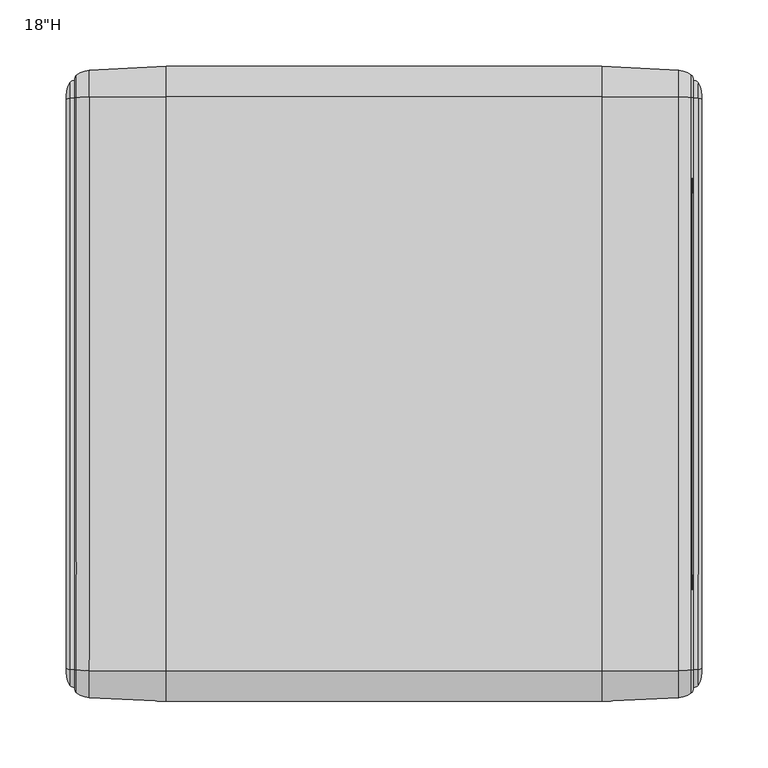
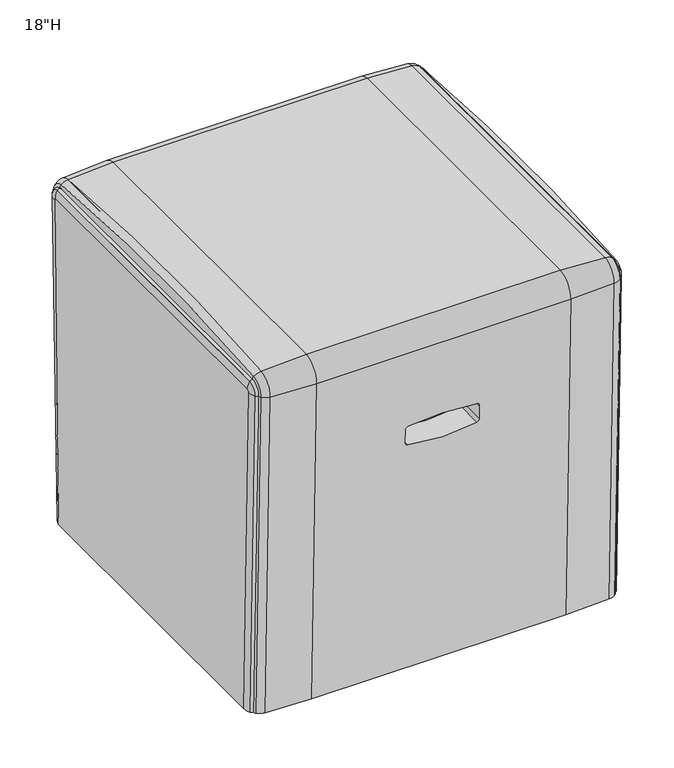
"""IFC4 building model written with IfcOpenShell, lengths in millimetres: furniture geometry."""

from ifc_helpers import new_model, si_unit, point, frame, origin, place, context, project, spatial, polyline, circle_curve, ellipse_curve, trimmed, source, transform, mapped, element, save
from ifc_brep_helpers import plane_surface, cylinder_surface, revolved_surface, advanced_brep


def furniture_cae93756(model_context):
    return source(origin(), model_context, "Body", "AdvancedBrep", [
        advanced_brep(
        [(163.8587008, -239.1073129, 454.7694891), (-163.8587008, -239.1073129, 454.7694891), (-163.8587008, -227.8777586, 17.2390594), (163.8587008, -227.8777586, 17.2390594), (44.2208622, -236.4942415, 352.9579458), (47.7093439, -236.3925517, 348.9958664), (47.7093439, -235.9314742, 331.0311777), (44.5276348, -235.8311049, 327.1205482), (-44.5276348, -235.8311049, 327.1205482), (-47.7093439, -235.9314742, 331.0311777), (-47.7093439, -236.3925517, 348.9958664), (-44.2208622, -236.4942415, 352.9579458), (-222.0087486, -236.1553847, 454.8452526), (-222.0087486, -224.9238858, 17.2390594), (163.8587008, -216.1489627, 480.5438656), (-163.8587008, -216.1489627, 480.5438656), (-222.0087486, -215.8842022, 477.6028586), (163.8587008, 216.1489627, 480.5438656), (-163.8587008, 216.1489627, 480.5438656), (-222.0087486, 215.8842022, 477.6028586), (163.8587008, 239.1073129, 454.7694891), (-163.8587008, 239.1073129, 454.7694891), (-222.0087486, 236.1553847, 454.8452526), (163.8587008, 227.8777586, 17.2390594), (-163.8587008, 227.8777586, 17.2390594), (-222.0087486, 224.9238858, 17.2390594), (-236.5968433, -226.6966313, 455.0880188), (-239.1289801, -217.2096187, 455.3315102), (-239.1289801, -205.9656397, 17.2390594), (-236.5968433, -215.4589017, 17.2390594), (-236.5968433, -215.0358402, 468.1790996), (-239.1289801, -214.1849436, 458.7271861), (-236.5968433, 215.0358402, 468.1790996), (-239.1289801, 214.1849436, 458.7271861), (-236.5968433, 226.6966313, 455.0880188), (-239.1289801, 217.2096187, 455.3315102), (-236.5968433, 215.4589017, 17.2390594), (-238.8280599, 209.3393613, 17.2390594), (-231.5440406, -221.1842912, 17.2390594), (-231.7344628, -216.2668747, 17.2390594), (-239.1289801, 209.3393613, 17.2390594), (-231.7425975, 216.2576632, 17.2390594), (-231.5440406, 221.1842912, 17.2390594), (222.0087486, 224.9238858, 17.2390594), (231.5440406, 221.1842912, 17.2390594), (231.7344658, 216.2668774, 17.2390594), (236.5968433, 215.4589017, 17.2390594), (238.8280599, 209.3393613, 17.2390594), (239.1289801, 209.3393613, 17.2390594), (239.1289801, -205.9656397, 17.2390594), (236.5968433, -215.4589017, 17.2390594), (231.7426005, -216.2576659, 17.2390594), (231.5440406, -221.1842912, 17.2390594), (222.0087486, -224.9238858, 17.2390594), (44.2208622, -200.9856224, 353.8693017), (-44.2208622, -200.9856224, 353.8693017), (-47.7093439, -200.8839326, 349.9072223), (-47.7093439, -200.4228551, 331.9425337), (-44.5276348, -200.3224858, 328.0319042), (44.5276348, -200.3224858, 328.0319042), (47.7093439, -200.4228551, 331.9425337), (47.7093439, -200.8839326, 349.9072223), (-231.5440406, -232.4182518, 454.941169), (-231.7344658, -227.5040751, 455.0672951), (239.1289801, -217.2096187, 455.3315102), (236.5968433, -226.6966313, 455.0880188), (231.7425975, -227.494867, 455.0675314), (231.5440406, -232.4182518, 454.941169), (222.0087486, -236.1553847, 454.8452526), (-231.5440406, -215.5490162, 473.8795519), (-231.7344658, -215.1082604, 468.9835562), (239.1289801, -214.1849436, 458.7271861), (236.5968433, -215.0358402, 468.1790996), (231.7425975, -215.1074345, 468.9743822), (231.5440406, -215.5490162, 473.8795519), (222.0087486, -215.8842022, 477.6028586), (-231.5440406, 215.5490162, 473.8795519), (-231.7344658, 215.1082604, 468.9835562), (239.1289801, 214.1849436, 458.7271861), (236.5968433, 215.0358402, 468.1790996), (231.7425975, 215.1074345, 468.9743822), (231.5440406, 215.5490162, 473.8795519), (222.0087486, 215.8842022, 477.6028586), (-231.5440406, 232.4182518, 454.941169), (-231.7344658, 227.5040751, 455.0672951), (239.1289801, 217.2096187, 455.3315102), (236.5968433, 226.6966313, 455.0880188), (231.7425975, 227.494867, 455.0675314), (231.5440406, 232.4182518, 454.941169), (222.0087486, 236.1553847, 454.8452526)],
        [
            (0, 1),
            (1, 2),
            (2, 3),
            (3, 0),
            (4, 5, circle_curve(frame((43.7136345, -236.3925517, 348.9958664), z_axis=(0.0, 0.999670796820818, 0.025657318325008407), x_axis=(0.0, 0.025657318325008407, -0.999670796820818)), 3.9957094)),
            (5, 6),
            (6, 7, circle_curve(frame((43.7136345, -235.9314742, 331.0311777), z_axis=(0.0, 0.999670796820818, 0.025657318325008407), x_axis=(0.0, 0.025657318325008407, -0.999670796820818)), 3.9957094)),
            (7, 8, circle_curve(frame((0.0, -241.3215305, 541.0407268), z_axis=(0.0, 0.999670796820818, 0.025657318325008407), x_axis=(0.0, 0.025657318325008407, -0.999670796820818)), 218.5742387)),
            (8, 9, circle_curve(frame((-43.7136345, -235.9314742, 331.0311777), z_axis=(0.0, 0.999670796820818, 0.025657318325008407), x_axis=(0.0, 0.025657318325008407, -0.999670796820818)), 3.9957094)),
            (9, 10),
            (10, 11, circle_curve(frame((-43.7136345, -236.3925517, 348.9958664), z_axis=(0.0, 0.999670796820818, 0.025657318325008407), x_axis=(0.0, 0.025657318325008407, -0.999670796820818)), 3.9957094)),
            (11, 4, circle_curve(frame((0.0, -227.6287739, 7.5380153), z_axis=(0.0, 0.999670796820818, 0.025657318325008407), x_axis=(0.0, 0.025657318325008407, -0.999670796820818)), 348.3518473)),
            (1, 12, circle_curve(frame((-163.8587008, 334.7406374, 469.4977372), z_axis=(0.0, 0.025657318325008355, -0.9996707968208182), x_axis=(0.0, -0.9996707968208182, -0.025657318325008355)), 574.0369251)),
            (12, 13),
            (13, 2, ellipse_curve(frame((-163.8587008, 346.3482035, 17.2390594), z_axis=(0.0, 0.0, 1.0), x_axis=(0.0, 1.0, 0.0)), 574.2259621, 574.0369251)),
            (0, 14, circle_curve(frame((163.8587008, -213.8869293, 455.4167896), z_axis=(-1.0, 0.0, 0.0), x_axis=(0.0, -0.9996707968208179, -0.025657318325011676)), 25.2286889)),
            (14, 15),
            (15, 1, circle_curve(frame((-163.8587008, -213.8869293, 455.4167896), z_axis=(1.0, 0.0, 0.0), x_axis=(0.0, -0.9996707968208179, -0.025657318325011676)), 25.2286889)),
            (15, 16, circle_curve(frame((-163.8587008, -164.6801507, -91.181027), z_axis=(0.0, -0.9959723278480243, -0.08966115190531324), x_axis=(0.0, -0.08966115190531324, 0.9959723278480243)), 574.0369251)),
            (16, 12, circle_curve(frame((-222.0087486, -213.8869293, 455.4167896), z_axis=(1.0, 0.0, 0.0), x_axis=(0.0, -0.9996707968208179, -0.025657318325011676)), 22.2757886)),
            (14, 17, circle_curve(frame((163.8587008, 0.0, -1920.477992), z_axis=(-1.0, 0.0, 0.0), x_axis=(0.0, -0.08966115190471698, 0.995972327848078)), 2410.7314937)),
            (17, 18),
            (18, 15, circle_curve(frame((-163.8587008, 0.0, -1920.477992), z_axis=(1.0, 0.0, 0.0), x_axis=(0.0, -0.08966115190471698, 0.995972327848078)), 2410.7314937)),
            (18, 19, circle_curve(frame((-163.8587008, 164.6801507, -91.181027), z_axis=(0.0, -0.9959723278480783, 0.08966115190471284), x_axis=(0.0, 0.08966115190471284, 0.9959723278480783)), 574.0369251)),
            (19, 16, circle_curve(frame((-222.0087486, 0.0, -1920.477992), z_axis=(1.0, 0.0, 0.0), x_axis=(0.0, -0.08966115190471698, 0.995972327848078)), 2407.7785933)),
            (17, 20, circle_curve(frame((163.8587008, 213.8869293, 455.4167896), z_axis=(-1.0, 0.0, 0.0), x_axis=(0.0, 0.08966115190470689, 0.9959723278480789)), 25.2286889)),
            (20, 21),
            (21, 18, circle_curve(frame((-163.8587008, 213.8869293, 455.4167896), z_axis=(1.0, 0.0, 0.0), x_axis=(0.0, 0.08966115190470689, 0.9959723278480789)), 25.2286889)),
            (21, 22, circle_curve(frame((-163.8587008, -334.7406374, 469.4977372), z_axis=(0.0, 0.025657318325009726, 0.999670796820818), x_axis=(0.0, 0.999670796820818, -0.025657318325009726)), 574.0369251)),
            (22, 19, circle_curve(frame((-222.0087486, 213.8869293, 455.4167896), z_axis=(1.0, 0.0, 0.0), x_axis=(0.0, 0.08966115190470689, 0.9959723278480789)), 22.2757886)),
            (20, 23),
            (23, 24),
            (24, 21),
            (24, 25, ellipse_curve(frame((-163.8587008, -346.3482035, 17.2390594), z_axis=(0.0, 0.0, 1.0), x_axis=(0.0, 1.0, 0.0)), 574.2259621, 574.0369251)),
            (25, 22),
            (26, 27, circle_curve(frame((-220.0789801, -217.2096187, 455.3315102), z_axis=(0.0, 0.025657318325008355, -0.9996707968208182), x_axis=(0.0, -0.9996707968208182, -0.025657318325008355)), 19.05)),
            (27, 28),
            (28, 29, ellipse_curve(frame((-220.0789801, -205.9656397, 17.2390594), z_axis=(0.0, 0.0, 1.0), x_axis=(0.0, 1.0, 0.0)), 19.0562734, 19.05)),
            (29, 26),
            (26, 30, circle_curve(frame((-236.5968433, -213.8869293, 455.4167896), z_axis=(-1.0, 0.0, 0.0), x_axis=(0.0, -0.9996707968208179, -0.025657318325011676)), 12.8139203)),
            (30, 31, circle_curve(frame((-220.0789801, -214.1849436, 458.7271861), z_axis=(0.0, -0.9959723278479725, -0.08966115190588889), x_axis=(0.0, -0.08966115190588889, 0.9959723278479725)), 19.05)),
            (31, 27, circle_curve(frame((-239.1289801, -213.8869293, 455.4167896), z_axis=(1.0, 0.0, 0.0), x_axis=(0.0, -0.9996707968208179, -0.025657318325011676)), 3.3237836)),
            (30, 32, circle_curve(frame((-236.5968433, 0.0, -1920.477992), z_axis=(-1.0, 0.0, 0.0), x_axis=(0.0, -0.08966115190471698, 0.995972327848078)), 2398.3167251)),
            (32, 33, circle_curve(frame((-220.0789801, 214.1849436, 458.7271861), z_axis=(0.0, -0.9959723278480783, 0.0896611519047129), x_axis=(0.0, 0.0896611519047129, 0.9959723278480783)), 19.05)),
            (33, 31, circle_curve(frame((-239.1289801, 0.0, -1920.477992), z_axis=(1.0, 0.0, 0.0), x_axis=(0.0, -0.08966115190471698, 0.995972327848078)), 2388.8265883)),
            (32, 34, circle_curve(frame((-236.5968433, 213.8869293, 455.4167896), z_axis=(-1.0, 0.0, 0.0), x_axis=(0.0, 0.08966115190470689, 0.9959723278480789)), 12.8139203)),
            (34, 35, circle_curve(frame((-220.0789801, 217.2096187, 455.3315102), z_axis=(0.0, 0.025657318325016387, 0.9996707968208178), x_axis=(0.0, 0.9996707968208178, -0.025657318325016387)), 19.05)),
            (35, 33, circle_curve(frame((-239.1289801, 213.8869293, 455.4167896), z_axis=(1.0, 0.0, 0.0), x_axis=(0.0, 0.08966115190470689, 0.9959723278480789)), 3.3237836)),
            (34, 36),
            (36, 37, ellipse_curve(frame((-220.0789801, 205.9656397, 17.2390594), z_axis=(0.0, 0.0, 1.0), x_axis=(0.0, 1.0, 0.0)), 19.0562734, 19.05)),
            (37, 35, ellipse_curve(frame((-220.0789801, 217.2096187, 455.3315102), z_axis=(0.0, 0.999838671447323, -0.01796193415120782), x_axis=(0.0, 0.017961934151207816, 0.9998386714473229)), 2474.9394383, 19.05)),
            (13, 38, ellipse_curve(frame((-220.0789801, -205.9656397, 17.2390594), z_axis=(0.0, 0.0, -1.0), x_axis=(0.0, 1.0, 0.0)), 19.0562734, 19.05)),
            (38, 39, ellipse_curve(frame((-229.6331972, -218.6478493, 17.2390594), z_axis=(0.0, 0.0, -1.0), x_axis=(0.0, 1.0, 0.0)), 3.1760456, 3.175)),
            (39, 29, ellipse_curve(frame((-233.8438661, -213.8766913, 17.2390594), z_axis=(0.0, 0.0, -1.0), x_axis=(0.0, 1.0, 0.0)), 3.1760456, 3.175)),
            (28, 40),
            (40, 37),
            (36, 41, ellipse_curve(frame((-233.8438661, 213.8766913, 17.2390594), z_axis=(0.0, 0.0, -1.0), x_axis=(0.0, 1.0, 0.0)), 3.1760456, 3.175)),
            (41, 42, ellipse_curve(frame((-229.6331972, 218.6478493, 17.2390594), z_axis=(0.0, 0.0, -1.0), x_axis=(0.0, 1.0, 0.0)), 3.1760456, 3.175)),
            (42, 25, ellipse_curve(frame((-220.0789801, 205.9656397, 17.2390594), z_axis=(0.0, 0.0, -1.0), x_axis=(0.0, 1.0, 0.0)), 19.0562734, 19.05)),
            (23, 43, ellipse_curve(frame((163.8587008, -346.3482035, 17.2390594), z_axis=(0.0, 0.0, -1.0), x_axis=(0.0, 1.0, 0.0)), 574.2259621, 574.0369251)),
            (43, 44, ellipse_curve(frame((220.0789801, 205.9656397, 17.2390594), z_axis=(0.0, 0.0, -1.0), x_axis=(0.0, 1.0, 0.0)), 19.0562734, 19.05)),
            (44, 45, ellipse_curve(frame((229.6331972, 218.6478493, 17.2390594), z_axis=(0.0, 0.0, -1.0), x_axis=(0.0, 1.0, 0.0)), 3.1760456, 3.175)),
            (45, 46, ellipse_curve(frame((233.8438661, 213.8766913, 17.2390594), z_axis=(0.0, 0.0, -1.0), x_axis=(0.0, 1.0, 0.0)), 3.1760456, 3.175)),
            (46, 47, ellipse_curve(frame((220.0789801, 205.9656397, 17.2390594), z_axis=(0.0, 0.0, -1.0), x_axis=(0.0, 1.0, 0.0)), 19.0562734, 19.05)),
            (47, 48),
            (48, 49),
            (49, 50, ellipse_curve(frame((220.0789801, -205.9656397, 17.2390594), z_axis=(0.0, 0.0, -1.0), x_axis=(0.0, 1.0, 0.0)), 19.0562734, 19.05)),
            (50, 51, ellipse_curve(frame((233.8438661, -213.8766913, 17.2390594), z_axis=(0.0, 0.0, -1.0), x_axis=(0.0, 1.0, 0.0)), 3.1760456, 3.175)),
            (51, 52, ellipse_curve(frame((229.6331972, -218.6478493, 17.2390594), z_axis=(0.0, 0.0, -1.0), x_axis=(0.0, 1.0, 0.0)), 3.1760456, 3.175)),
            (52, 53, ellipse_curve(frame((220.0789801, -205.9656397, 17.2390594), z_axis=(0.0, 0.0, -1.0), x_axis=(0.0, 1.0, 0.0)), 19.0562734, 19.05)),
            (53, 3, ellipse_curve(frame((163.8587008, 346.3482035, 17.2390594), z_axis=(0.0, 0.0, -1.0), x_axis=(0.0, 1.0, 0.0)), 574.2259621, 574.0369251)),
            (54, 55, circle_curve(frame((0.0, -192.1201548, 8.4493712), z_axis=(0.0, -0.999670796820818, -0.025657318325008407), x_axis=(0.0, 0.025657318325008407, -0.999670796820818)), 348.3518473)),
            (55, 56, circle_curve(frame((-43.7136345, -200.8839326, 349.9072223), z_axis=(0.0, -0.999670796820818, -0.025657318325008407), x_axis=(0.0, 0.025657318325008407, -0.999670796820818)), 3.9957094)),
            (56, 57),
            (57, 58, circle_curve(frame((-43.7136345, -200.4228551, 331.9425337), z_axis=(0.0, -0.999670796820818, -0.025657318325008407), x_axis=(0.0, 0.025657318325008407, -0.999670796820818)), 3.9957094)),
            (58, 59, circle_curve(frame((0.0, -205.8129114, 541.9520827), z_axis=(0.0, -0.999670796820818, -0.025657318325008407), x_axis=(0.0, 0.025657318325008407, -0.999670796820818)), 218.5742387)),
            (59, 60, circle_curve(frame((43.7136345, -200.4228551, 331.9425337), z_axis=(0.0, -0.999670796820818, -0.025657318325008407), x_axis=(0.0, 0.025657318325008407, -0.999670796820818)), 3.9957094)),
            (60, 61),
            (61, 54, circle_curve(frame((43.7136345, -200.8839326, 349.9072223), z_axis=(0.0, -0.999670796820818, -0.025657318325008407), x_axis=(0.0, 0.025657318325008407, -0.999670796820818)), 3.9957094)),
            (61, 5),
            (4, 54),
            (60, 6),
            (59, 7),
            (58, 8),
            (57, 9),
            (56, 10),
            (55, 11),
            (12, 62, circle_curve(frame((-220.0789801, -217.2096187, 455.3315102), z_axis=(0.0, 0.025657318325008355, -0.9996707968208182), x_axis=(0.0, -0.9996707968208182, -0.025657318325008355)), 19.05)),
            (62, 38),
            (62, 63, circle_curve(frame((-229.6331972, -229.8834796, 455.0062258), z_axis=(0.0, 0.025657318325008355, -0.9996707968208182), x_axis=(0.0, -0.9996707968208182, -0.025657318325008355)), 3.175)),
            (63, 39),
            (63, 26, circle_curve(frame((-233.8438661, -225.1154625, 455.1286007), z_axis=(0.0, 0.025657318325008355, -0.9996707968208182), x_axis=(0.0, -0.9996707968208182, -0.025657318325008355)), 3.175)),
            (64, 65, circle_curve(frame((220.0789801, -217.2096187, 455.3315102), z_axis=(0.0, 0.025657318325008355, -0.9996707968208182), x_axis=(0.0, -0.9996707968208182, -0.025657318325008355)), 19.05)),
            (65, 50),
            (49, 64),
            (65, 66, circle_curve(frame((233.8438661, -225.1154625, 455.1286007), z_axis=(0.0, 0.025657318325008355, -0.9996707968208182), x_axis=(0.0, -0.9996707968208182, -0.025657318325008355)), 3.175)),
            (66, 51),
            (66, 67, circle_curve(frame((229.6331972, -229.8834796, 455.0062258), z_axis=(0.0, 0.025657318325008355, -0.9996707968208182), x_axis=(0.0, -0.9996707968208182, -0.025657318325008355)), 3.175)),
            (67, 52),
            (67, 68, circle_curve(frame((220.0789801, -217.2096187, 455.3315102), z_axis=(0.0, 0.025657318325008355, -0.9996707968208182), x_axis=(0.0, -0.9996707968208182, -0.025657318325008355)), 19.05)),
            (68, 53),
            (68, 0, circle_curve(frame((163.8587008, 334.7406374, 469.4977372), z_axis=(0.0, 0.025657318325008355, -0.9996707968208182), x_axis=(0.0, -0.9996707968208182, -0.025657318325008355)), 574.0369251)),
            (16, 69, circle_curve(frame((-220.0789801, -214.1849436, 458.7271861), z_axis=(0.0, -0.9959723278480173, -0.08966115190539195), x_axis=(0.0, -0.08966115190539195, 0.9959723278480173)), 19.05)),
            (69, 62, circle_curve(frame((-231.5440406, -213.8869293, 455.4167896), z_axis=(1.0, 0.0, 0.0), x_axis=(0.0, -0.9996707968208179, -0.025657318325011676)), 18.537425)),
            (69, 70, circle_curve(frame((-229.6331972, -215.3216708, 471.3541576), z_axis=(0.0, -0.9959723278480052, -0.08966115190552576), x_axis=(0.0, -0.08966115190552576, 0.9959723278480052)), 3.175)),
            (70, 63, circle_curve(frame((-231.7344658, -213.8869293, 455.4167896), z_axis=(1.0, 0.0, 0.0), x_axis=(0.0, -0.9996707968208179, -0.025657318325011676)), 13.62163)),
            (70, 30, circle_curve(frame((-233.8438661, -214.8940241, 466.6037807), z_axis=(0.0, -0.9959723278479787, -0.08966115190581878), x_axis=(0.0, -0.08966115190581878, 0.9959723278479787)), 3.175)),
            (64, 71, circle_curve(frame((239.1289801, -213.8869293, 455.4167896), z_axis=(-1.0, 0.0, 0.0), x_axis=(0.0, -0.9996707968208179, -0.025657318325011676)), 3.3237836)),
            (71, 72, circle_curve(frame((220.0789801, -214.1849436, 458.7271861), z_axis=(0.0, -0.9959723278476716, -0.08966115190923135), x_axis=(0.0, -0.08966115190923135, 0.9959723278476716)), 19.05)),
            (72, 65, circle_curve(frame((236.5968433, -213.8869293, 455.4167896), z_axis=(1.0, 0.0, 0.0), x_axis=(0.0, -0.9996707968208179, -0.025657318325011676)), 12.8139203)),
            (72, 73, circle_curve(frame((233.8438661, -214.8940241, 466.6037807), z_axis=(0.0, -0.9959723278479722, -0.08966115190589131), x_axis=(0.0, -0.08966115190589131, 0.9959723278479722)), 3.175)),
            (73, 66, circle_curve(frame((231.7425975, -213.8869293, 455.4167896), z_axis=(1.0, 0.0, 0.0), x_axis=(0.0, -0.9996707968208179, -0.025657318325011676)), 13.6124189)),
            (73, 74, circle_curve(frame((229.6331972, -215.3216708, 471.3541576), z_axis=(0.0, -0.9959723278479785, -0.08966115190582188), x_axis=(0.0, -0.08966115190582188, 0.9959723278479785)), 3.175)),
            (74, 67, circle_curve(frame((231.5440406, -213.8869293, 455.4167896), z_axis=(1.0, 0.0, 0.0), x_axis=(0.0, -0.9996707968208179, -0.025657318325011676)), 18.537425)),
            (74, 75, circle_curve(frame((220.0789801, -214.1849436, 458.7271861), z_axis=(0.0, -0.9959723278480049, -0.08966115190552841), x_axis=(0.0, -0.08966115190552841, 0.9959723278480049)), 19.05)),
            (75, 68, circle_curve(frame((222.0087486, -213.8869293, 455.4167896), z_axis=(1.0, 0.0, 0.0), x_axis=(0.0, -0.9996707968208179, -0.025657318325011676)), 22.2757886)),
            (75, 14, circle_curve(frame((163.8587008, -164.6801507, -91.181027), z_axis=(0.0, -0.9959723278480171, -0.0896611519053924), x_axis=(0.0, -0.0896611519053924, 0.9959723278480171)), 574.0369251)),
            (19, 76, circle_curve(frame((-220.0789801, 214.1849436, 458.7271861), z_axis=(0.0, -0.9959723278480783, 0.0896611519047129), x_axis=(0.0, 0.0896611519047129, 0.9959723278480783)), 19.05)),
            (76, 69, circle_curve(frame((-231.5440406, 0.0, -1920.477992), z_axis=(1.0, 0.0, 0.0), x_axis=(0.0, -0.08966115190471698, 0.995972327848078)), 2404.0402298)),
            (76, 77, circle_curve(frame((-229.6331972, 215.3216708, 471.3541576), z_axis=(0.0, -0.9959723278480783, 0.0896611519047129), x_axis=(0.0, 0.0896611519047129, 0.9959723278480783)), 3.175)),
            (77, 70, circle_curve(frame((-231.7344658, 0.0, -1920.477992), z_axis=(1.0, 0.0, 0.0), x_axis=(0.0, -0.08966115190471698, 0.995972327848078)), 2399.1244348)),
            (77, 32, circle_curve(frame((-233.8438661, 214.8940241, 466.6037807), z_axis=(0.0, -0.9959723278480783, 0.08966115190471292), x_axis=(0.0, 0.08966115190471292, 0.9959723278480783)), 3.175)),
            (71, 78, circle_curve(frame((239.1289801, 0.0, -1920.477992), z_axis=(-1.0, 0.0, 0.0), x_axis=(0.0, -0.08966115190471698, 0.995972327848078)), 2388.8265883)),
            (78, 79, circle_curve(frame((220.0789801, 214.1849436, 458.7271861), z_axis=(0.0, -0.9959723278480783, 0.08966115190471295), x_axis=(0.0, 0.08966115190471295, 0.9959723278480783)), 19.05)),
            (79, 72, circle_curve(frame((236.5968433, 0.0, -1920.477992), z_axis=(1.0, 0.0, 0.0), x_axis=(0.0, -0.08966115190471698, 0.995972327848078)), 2398.3167251)),
            (79, 80, circle_curve(frame((233.8438661, 214.8940241, 466.6037807), z_axis=(0.0, -0.9959723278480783, 0.0896611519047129), x_axis=(0.0, 0.0896611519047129, 0.9959723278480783)), 3.175)),
            (80, 73, circle_curve(frame((231.7425975, 0.0, -1920.477992), z_axis=(1.0, 0.0, 0.0), x_axis=(0.0, -0.08966115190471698, 0.995972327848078)), 2399.1152237)),
            (80, 81, circle_curve(frame((229.6331972, 215.3216708, 471.3541576), z_axis=(0.0, -0.9959723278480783, 0.0896611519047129), x_axis=(0.0, 0.0896611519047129, 0.9959723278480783)), 3.175)),
            (81, 74, circle_curve(frame((231.5440406, 0.0, -1920.477992), z_axis=(1.0, 0.0, 0.0), x_axis=(0.0, -0.08966115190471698, 0.995972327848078)), 2404.0402298)),
            (81, 82, circle_curve(frame((220.0789801, 214.1849436, 458.7271861), z_axis=(0.0, -0.9959723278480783, 0.08966115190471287), x_axis=(0.0, 0.08966115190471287, 0.9959723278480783)), 19.05)),
            (82, 75, circle_curve(frame((222.0087486, 0.0, -1920.477992), z_axis=(1.0, 0.0, 0.0), x_axis=(0.0, -0.08966115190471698, 0.995972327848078)), 2407.7785933)),
            (82, 17, circle_curve(frame((163.8587008, 164.6801507, -91.181027), z_axis=(0.0, -0.9959723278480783, 0.08966115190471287), x_axis=(0.0, 0.08966115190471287, 0.9959723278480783)), 574.0369251)),
            (22, 83, circle_curve(frame((-220.0789801, 217.2096187, 455.3315102), z_axis=(0.0, 0.025657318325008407, 0.999670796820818), x_axis=(0.0, 0.999670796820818, -0.025657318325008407)), 19.05)),
            (83, 76, circle_curve(frame((-231.5440406, 213.8869293, 455.4167896), z_axis=(1.0, 0.0, 0.0), x_axis=(0.0, 0.08966115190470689, 0.9959723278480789)), 18.537425)),
            (83, 84, circle_curve(frame((-229.6331972, 229.8834796, 455.0062258), z_axis=(0.0, 0.025657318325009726, 0.999670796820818), x_axis=(0.0, 0.999670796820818, -0.025657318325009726)), 3.175)),
            (84, 77, circle_curve(frame((-231.7344658, 213.8869293, 455.4167896), z_axis=(1.0, 0.0, 0.0), x_axis=(0.0, 0.08966115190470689, 0.9959723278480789)), 13.62163)),
            (84, 34, circle_curve(frame((-233.8438661, 225.1154625, 455.1286007), z_axis=(0.0, 0.025657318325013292, 0.9996707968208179), x_axis=(0.0, 0.9996707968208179, -0.025657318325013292)), 3.175)),
            (78, 85, circle_curve(frame((239.1289801, 213.8869293, 455.4167896), z_axis=(-1.0, 0.0, 0.0), x_axis=(0.0, 0.08966115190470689, 0.9959723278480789)), 3.3237836)),
            (85, 86, circle_curve(frame((220.0789801, 217.2096187, 455.3315102), z_axis=(0.0, 0.025657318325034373, 0.9996707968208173), x_axis=(0.0, 0.9996707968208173, -0.025657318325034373)), 19.05)),
            (86, 79, circle_curve(frame((236.5968433, 213.8869293, 455.4167896), z_axis=(1.0, 0.0, 0.0), x_axis=(0.0, 0.08966115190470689, 0.9959723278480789)), 12.8139203)),
            (86, 87, circle_curve(frame((233.8438661, 225.1154625, 455.1286007), z_axis=(0.0, 0.025657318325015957, 0.9996707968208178), x_axis=(0.0, 0.9996707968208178, -0.025657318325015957)), 3.175)),
            (87, 80, circle_curve(frame((231.7425975, 213.8869293, 455.4167896), z_axis=(1.0, 0.0, 0.0), x_axis=(0.0, 0.08966115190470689, 0.9959723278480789)), 13.6124189)),
            (87, 88, circle_curve(frame((229.6331972, 229.8834796, 455.0062258), z_axis=(0.0, 0.02565731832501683, 0.9996707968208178), x_axis=(0.0, 0.9996707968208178, -0.02565731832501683)), 3.175)),
            (88, 81, circle_curve(frame((231.5440406, 213.8869293, 455.4167896), z_axis=(1.0, 0.0, 0.0), x_axis=(0.0, 0.08966115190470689, 0.9959723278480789)), 18.537425)),
            (88, 89, circle_curve(frame((220.0789801, 217.2096187, 455.3315102), z_axis=(0.0, 0.02565731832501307, 0.999670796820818), x_axis=(0.0, 0.999670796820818, -0.02565731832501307)), 19.05)),
            (89, 82, circle_curve(frame((222.0087486, 213.8869293, 455.4167896), z_axis=(1.0, 0.0, 0.0), x_axis=(0.0, 0.08966115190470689, 0.9959723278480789)), 22.2757886)),
            (89, 20, circle_curve(frame((163.8587008, -334.7406374, 469.4977372), z_axis=(0.0, 0.02565731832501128, 0.999670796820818), x_axis=(0.0, 0.999670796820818, -0.02565731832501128)), 574.0369251)),
            (42, 83),
            (41, 84),
            (85, 47, ellipse_curve(frame((220.0789801, 217.2096187, 455.3315102), z_axis=(0.0, 0.999838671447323, -0.01796193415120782), x_axis=(0.0, 0.017961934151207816, 0.9998386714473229)), 2474.9394383, 19.05)),
            (46, 86),
            (45, 87),
            (44, 88),
            (43, 89),
            (35, 40),
            (48, 85),
        ],
        [
            plane_surface(frame((163.8587008, -227.8633339, 16.6770383), z_axis=(0.0, -0.999670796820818, -0.025657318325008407), x_axis=(0.0, -0.025657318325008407, 0.999670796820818))),
            cylinder_surface(frame((-163.8587008, 345.9846164, 31.4052864), z_axis=(0.0, 0.025657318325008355, -0.9996707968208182), x_axis=(0.0, -0.9996707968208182, -0.025657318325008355)), 574.0369251),
            cylinder_surface(frame((0.0, -213.8869293, 455.4167896), z_axis=(-1.0, 0.0, 0.0), x_axis=(0.0, -0.9996707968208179, -0.025657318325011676)), 25.2286889),
            revolved_surface(trimmed(ellipse_curve(frame((-163.8587008, 334.7406374, 469.4977372), z_axis=(0.0, 0.0256573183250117, -0.9996707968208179), x_axis=(0.0, -0.9996707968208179, -0.0256573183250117)), 574.0369251, 574.0369251), [point((-163.8587008, -239.1073129, 454.7694891))], [point((-222.0087486, -236.1553847, 454.8452526))], True, "CARTESIAN"), (0.0, -213.8869293, 455.4167896), (-1.0, 0.0, 0.0)),
            cylinder_surface(frame((0.0, 0.0, -1920.477992), z_axis=(-1.0, 0.0, 0.0), x_axis=(0.0, -0.08966115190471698, 0.995972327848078)), 2410.7314937),
            revolved_surface(trimmed(ellipse_curve(frame((-163.8587008, -164.6801507, -91.181027), z_axis=(0.0, -0.995972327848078, -0.08966115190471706), x_axis=(0.0, -0.08966115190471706, 0.995972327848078)), 574.0369251, 574.0369251), [point((-163.8587008, -216.1489627, 480.5438656))], [point((-222.0087486, -215.8842022, 477.6028586))], True, "CARTESIAN"), (0.0, 0.0, -1920.477992), (-1.0, 0.0, 0.0)),
            cylinder_surface(frame((0.0, 213.8869293, 455.4167896), z_axis=(-1.0, 0.0, 0.0), x_axis=(0.0, 0.08966115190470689, 0.9959723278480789)), 25.2286889),
            revolved_surface(trimmed(ellipse_curve(frame((-163.8587008, 164.6801507, -91.181027), z_axis=(0.0, -0.9959723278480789, 0.08966115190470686), x_axis=(0.0, 0.08966115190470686, 0.9959723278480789)), 574.0369251, 574.0369251), [point((-163.8587008, 216.1489627, 480.5438656))], [point((-222.0087486, 215.8842022, 477.6028586))], True, "CARTESIAN"), (0.0, 213.8869293, 455.4167896), (-1.0, 0.0, 0.0)),
            plane_surface(frame((163.8587008, 239.1073129, 454.7694891), z_axis=(0.0, 0.9996707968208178, -0.02565731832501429), x_axis=(0.0, -0.02565731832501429, -0.9996707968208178))),
            cylinder_surface(frame((-163.8587008, -334.7406374, 469.4977372), z_axis=(0.0, 0.025657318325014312, 0.9996707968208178), x_axis=(0.0, 0.9996707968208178, -0.025657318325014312)), 574.0369251),
            cylinder_surface(frame((-220.0789801, -205.9656397, 17.2390594), z_axis=(0.0, 0.025657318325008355, -0.9996707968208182), x_axis=(0.0, -0.9996707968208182, -0.025657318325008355)), 19.05),
            revolved_surface(trimmed(ellipse_curve(frame((-220.0789801, -217.2096187, 455.3315102), z_axis=(0.0, 0.0256573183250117, -0.9996707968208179), x_axis=(0.0, -0.9996707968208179, -0.0256573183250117)), 19.05, 19.05), [point((-236.5968433, -226.6966313, 455.0880188))], [point((-239.1289801, -217.2096187, 455.3315102))], True, "CARTESIAN"), (0.0, -213.8869293, 455.4167896), (-1.0, 0.0, 0.0)),
            revolved_surface(trimmed(ellipse_curve(frame((-220.0789801, -214.1849436, 458.7271861), z_axis=(0.0, -0.995972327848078, -0.08966115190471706), x_axis=(0.0, -0.08966115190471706, 0.995972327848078)), 19.05, 19.05), [point((-236.5968433, -215.0358402, 468.1790996))], [point((-239.1289801, -214.1849436, 458.7271861))], True, "CARTESIAN"), (0.0, 0.0, -1920.477992), (-1.0, 0.0, 0.0)),
            revolved_surface(trimmed(ellipse_curve(frame((-220.0789801, 214.1849436, 458.7271861), z_axis=(0.0, -0.9959723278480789, 0.08966115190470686), x_axis=(0.0, 0.08966115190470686, 0.9959723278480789)), 19.05, 19.05), [point((-236.5968433, 215.0358402, 468.1790996))], [point((-239.1289801, 214.1849436, 458.7271861))], True, "CARTESIAN"), (0.0, 213.8869293, 455.4167896), (-1.0, 0.0, 0.0)),
            cylinder_surface(frame((-220.0789801, 217.2096187, 455.3315102), z_axis=(0.0, 0.025657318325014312, 0.9996707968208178), x_axis=(0.0, 0.9996707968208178, -0.025657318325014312)), 19.05),
            plane_surface(frame((239.1289801, 234.95, 17.2390594), z_axis=(0.0, 0.0, -1.0), x_axis=(-1.0, 0.0, 0.0))),
            plane_surface(frame((43.7136345, -200.7814134, 345.9128283), z_axis=(0.0, -0.999670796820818, -0.02565731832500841), x_axis=(-1.0, 0.0, 0.0))),
            revolved_surface(polyline([(43.7136345, -200.78141340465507, 345.912828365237), (43.7136345, -236.29003251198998, 345.00147240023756)]), (43.7136345, -236.3925517, 348.9958664), (0.0, 0.999670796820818, 0.025657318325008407)),
            plane_surface(frame((47.7093439, -200.8839326, 349.9072223), z_axis=(-1.0000000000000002, 0.0, 0.0), x_axis=(0.0, -0.999670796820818, -0.02565731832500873))),
            revolved_surface(polyline([(43.7136345, -200.3203359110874, 327.9481396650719), (43.7136345, -235.82895501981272, 327.0367837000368)]), (43.7136345, -235.9314742, 331.0311777), (0.0, 0.999670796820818, 0.025657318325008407)),
            revolved_surface(polyline([(0.0, -200.20488256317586, 323.449799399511), (0.0, -235.71350168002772, 322.5384434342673)]), (0.0, -241.3215305, 541.0407268), (0.0, 0.999670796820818, 0.025657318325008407)),
            revolved_surface(polyline([(-43.7136345, -200.3203359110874, 327.9481396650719), (-43.7136345, -235.82895501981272, 327.0367837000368)]), (-43.7136345, -235.9314742, 331.0311777), (0.0, 0.999670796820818, 0.025657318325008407)),
            plane_surface(frame((-47.7093439, -200.4228551, 331.9425337), z_axis=(1.0000000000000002, 0.0, 0.0), x_axis=(0.0, -0.999670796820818, -0.02565731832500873))),
            revolved_surface(polyline([(-43.7136345, -200.78141340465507, 345.912828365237), (-43.7136345, -236.29003251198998, 345.00147240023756)]), (-43.7136345, -236.3925517, 348.9958664), (0.0, 0.999670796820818, 0.025657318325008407)),
            revolved_surface(polyline([(0.0, -183.18238051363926, -339.78779749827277), (0.0, -218.6909996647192, -340.69915346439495)]), (0.0, -227.6287739, 7.5380153), (0.0, 0.999670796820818, 0.025657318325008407)),
            cylinder_surface(frame((-229.6331972, -218.6395006, 16.9137751), z_axis=(0.0, 0.025657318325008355, -0.9996707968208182), x_axis=(0.0, -0.9996707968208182, -0.025657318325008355)), 3.175),
            cylinder_surface(frame((-233.8438661, -213.8714835, 17.0361499), z_axis=(0.0, 0.025657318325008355, -0.9996707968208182), x_axis=(0.0, -0.9996707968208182, -0.025657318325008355)), 3.175),
            cylinder_surface(frame((220.0789801, -205.9656397, 17.2390594), z_axis=(0.0, 0.025657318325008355, -0.9996707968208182), x_axis=(0.0, -0.9996707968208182, -0.025657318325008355)), 19.05),
            cylinder_surface(frame((233.8438661, -213.8714835, 17.0361499), z_axis=(0.0, 0.025657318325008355, -0.9996707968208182), x_axis=(0.0, -0.9996707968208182, -0.025657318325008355)), 3.175),
            cylinder_surface(frame((229.6331972, -218.6395006, 16.9137751), z_axis=(0.0, 0.025657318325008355, -0.9996707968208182), x_axis=(0.0, -0.9996707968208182, -0.025657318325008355)), 3.175),
            cylinder_surface(frame((163.8587008, 345.9846164, 31.4052864), z_axis=(0.0, 0.025657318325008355, -0.9996707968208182), x_axis=(0.0, -0.9996707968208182, -0.025657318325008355)), 574.0369251),
            revolved_surface(trimmed(ellipse_curve(frame((-220.0789801, -217.2096187, 455.3315102), z_axis=(0.0, 0.0256573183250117, -0.9996707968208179), x_axis=(0.0, -0.9996707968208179, -0.0256573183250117)), 19.05, 19.05), [point((-222.0087486, -236.1553847, 454.8452526))], [point((-231.5440406, -232.4182518, 454.941169))], True, "CARTESIAN"), (0.0, -213.8869293, 455.4167896), (-1.0, 0.0, 0.0)),
            revolved_surface(trimmed(ellipse_curve(frame((-229.6331972, -229.8834796, 455.0062258), z_axis=(0.0, 0.0256573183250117, -0.9996707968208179), x_axis=(0.0, -0.9996707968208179, -0.0256573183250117)), 3.175, 3.175), [point((-231.5440406, -232.4182518, 454.941169))], [point((-231.7344658, -227.5040751, 455.0672951))], True, "CARTESIAN"), (0.0, -213.8869293, 455.4167896), (-1.0, 0.0, 0.0)),
            revolved_surface(trimmed(ellipse_curve(frame((-233.8438661, -225.1154625, 455.1286007), z_axis=(0.0, 0.0256573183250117, -0.9996707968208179), x_axis=(0.0, -0.9996707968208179, -0.0256573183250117)), 3.175, 3.175), [point((-231.7425975, -227.494867, 455.0675314))], [point((-236.5968433, -226.6966313, 455.0880188))], True, "CARTESIAN"), (0.0, -213.8869293, 455.4167896), (-1.0, 0.0, 0.0)),
            revolved_surface(trimmed(ellipse_curve(frame((220.0789801, -217.2096187, 455.3315102), z_axis=(0.0, 0.0256573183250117, -0.9996707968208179), x_axis=(0.0, -0.9996707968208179, -0.0256573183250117)), 19.05, 19.05), [point((239.1289801, -217.2096187, 455.3315102))], [point((236.5968433, -226.6966313, 455.0880188))], True, "CARTESIAN"), (0.0, -213.8869293, 455.4167896), (-1.0, 0.0, 0.0)),
            revolved_surface(trimmed(ellipse_curve(frame((233.8438661, -225.1154625, 455.1286007), z_axis=(0.0, 0.0256573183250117, -0.9996707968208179), x_axis=(0.0, -0.9996707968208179, -0.0256573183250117)), 3.175, 3.175), [point((236.5968433, -226.6966313, 455.0880188))], [point((231.7425975, -227.494867, 455.0675314))], True, "CARTESIAN"), (0.0, -213.8869293, 455.4167896), (-1.0, 0.0, 0.0)),
            revolved_surface(trimmed(ellipse_curve(frame((229.6331972, -229.8834796, 455.0062258), z_axis=(0.0, 0.0256573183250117, -0.9996707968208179), x_axis=(0.0, -0.9996707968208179, -0.0256573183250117)), 3.175, 3.175), [point((231.7344658, -227.5040751, 455.0672951))], [point((231.5440406, -232.4182518, 454.941169))], True, "CARTESIAN"), (0.0, -213.8869293, 455.4167896), (-1.0, 0.0, 0.0)),
            revolved_surface(trimmed(ellipse_curve(frame((220.0789801, -217.2096187, 455.3315102), z_axis=(0.0, 0.0256573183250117, -0.9996707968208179), x_axis=(0.0, -0.9996707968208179, -0.0256573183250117)), 19.05, 19.05), [point((231.5440406, -232.4182518, 454.941169))], [point((222.0087486, -236.1553847, 454.8452526))], True, "CARTESIAN"), (0.0, -213.8869293, 455.4167896), (-1.0, 0.0, 0.0)),
            revolved_surface(trimmed(ellipse_curve(frame((163.8587008, 334.7406374, 469.4977372), z_axis=(0.0, 0.0256573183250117, -0.9996707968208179), x_axis=(0.0, -0.9996707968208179, -0.0256573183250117)), 574.0369251, 574.0369251), [point((222.0087486, -236.1553847, 454.8452526))], [point((163.8587008, -239.1073129, 454.7694891))], True, "CARTESIAN"), (0.0, -213.8869293, 455.4167896), (-1.0, 0.0, 0.0)),
            revolved_surface(trimmed(ellipse_curve(frame((-220.0789801, -214.1849436, 458.7271861), z_axis=(0.0, -0.995972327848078, -0.08966115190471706), x_axis=(0.0, -0.08966115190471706, 0.995972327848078)), 19.05, 19.05), [point((-222.0087486, -215.8842022, 477.6028586))], [point((-231.5440406, -215.5490162, 473.8795519))], True, "CARTESIAN"), (0.0, 0.0, -1920.477992), (-1.0, 0.0, 0.0)),
            revolved_surface(trimmed(ellipse_curve(frame((-229.6331972, -215.3216708, 471.3541576), z_axis=(0.0, -0.995972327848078, -0.08966115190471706), x_axis=(0.0, -0.08966115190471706, 0.995972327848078)), 3.175, 3.175), [point((-231.5440406, -215.5490162, 473.8795519))], [point((-231.7344658, -215.1082604, 468.9835562))], True, "CARTESIAN"), (0.0, 0.0, -1920.477992), (-1.0, 0.0, 0.0)),
            revolved_surface(trimmed(ellipse_curve(frame((-233.8438661, -214.8940241, 466.6037807), z_axis=(0.0, -0.995972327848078, -0.08966115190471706), x_axis=(0.0, -0.08966115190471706, 0.995972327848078)), 3.175, 3.175), [point((-231.7425975, -215.1074345, 468.9743822))], [point((-236.5968433, -215.0358402, 468.1790996))], True, "CARTESIAN"), (0.0, 0.0, -1920.477992), (-1.0, 0.0, 0.0)),
            revolved_surface(trimmed(ellipse_curve(frame((220.0789801, -214.1849436, 458.7271861), z_axis=(0.0, -0.995972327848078, -0.08966115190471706), x_axis=(0.0, -0.08966115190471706, 0.995972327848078)), 19.05, 19.05), [point((239.1289801, -214.1849436, 458.7271861))], [point((236.5968433, -215.0358402, 468.1790996))], True, "CARTESIAN"), (0.0, 0.0, -1920.477992), (-1.0, 0.0, 0.0)),
            revolved_surface(trimmed(ellipse_curve(frame((233.8438661, -214.8940241, 466.6037807), z_axis=(0.0, -0.995972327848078, -0.08966115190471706), x_axis=(0.0, -0.08966115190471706, 0.995972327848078)), 3.175, 3.175), [point((236.5968433, -215.0358402, 468.1790996))], [point((231.7425975, -215.1074345, 468.9743822))], True, "CARTESIAN"), (0.0, 0.0, -1920.477992), (-1.0, 0.0, 0.0)),
            revolved_surface(trimmed(ellipse_curve(frame((229.6331972, -215.3216708, 471.3541576), z_axis=(0.0, -0.995972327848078, -0.08966115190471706), x_axis=(0.0, -0.08966115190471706, 0.995972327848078)), 3.175, 3.175), [point((231.7344658, -215.1082604, 468.9835562))], [point((231.5440406, -215.5490162, 473.8795519))], True, "CARTESIAN"), (0.0, 0.0, -1920.477992), (-1.0, 0.0, 0.0)),
            revolved_surface(trimmed(ellipse_curve(frame((220.0789801, -214.1849436, 458.7271861), z_axis=(0.0, -0.995972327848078, -0.08966115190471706), x_axis=(0.0, -0.08966115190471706, 0.995972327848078)), 19.05, 19.05), [point((231.5440406, -215.5490162, 473.8795519))], [point((222.0087486, -215.8842022, 477.6028586))], True, "CARTESIAN"), (0.0, 0.0, -1920.477992), (-1.0, 0.0, 0.0)),
            revolved_surface(trimmed(ellipse_curve(frame((163.8587008, -164.6801507, -91.181027), z_axis=(0.0, -0.995972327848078, -0.08966115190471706), x_axis=(0.0, -0.08966115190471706, 0.995972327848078)), 574.0369251, 574.0369251), [point((222.0087486, -215.8842022, 477.6028586))], [point((163.8587008, -216.1489627, 480.5438656))], True, "CARTESIAN"), (0.0, 0.0, -1920.477992), (-1.0, 0.0, 0.0)),
            revolved_surface(trimmed(ellipse_curve(frame((-220.0789801, 214.1849436, 458.7271861), z_axis=(0.0, -0.9959723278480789, 0.08966115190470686), x_axis=(0.0, 0.08966115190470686, 0.9959723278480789)), 19.05, 19.05), [point((-222.0087486, 215.8842022, 477.6028586))], [point((-231.5440406, 215.5490162, 473.8795519))], True, "CARTESIAN"), (0.0, 213.8869293, 455.4167896), (-1.0, 0.0, 0.0)),
            revolved_surface(trimmed(ellipse_curve(frame((-229.6331972, 215.3216708, 471.3541576), z_axis=(0.0, -0.9959723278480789, 0.08966115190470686), x_axis=(0.0, 0.08966115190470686, 0.9959723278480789)), 3.175, 3.175), [point((-231.5440406, 215.5490162, 473.8795519))], [point((-231.7344658, 215.1082604, 468.9835562))], True, "CARTESIAN"), (0.0, 213.8869293, 455.4167896), (-1.0, 0.0, 0.0)),
            revolved_surface(trimmed(ellipse_curve(frame((-233.8438661, 214.8940241, 466.6037807), z_axis=(0.0, -0.9959723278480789, 0.08966115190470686), x_axis=(0.0, 0.08966115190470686, 0.9959723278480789)), 3.175, 3.175), [point((-231.7425975, 215.1074345, 468.9743822))], [point((-236.5968433, 215.0358402, 468.1790996))], True, "CARTESIAN"), (0.0, 213.8869293, 455.4167896), (-1.0, 0.0, 0.0)),
            revolved_surface(trimmed(ellipse_curve(frame((220.0789801, 214.1849436, 458.7271861), z_axis=(0.0, -0.9959723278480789, 0.08966115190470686), x_axis=(0.0, 0.08966115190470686, 0.9959723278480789)), 19.05, 19.05), [point((239.1289801, 214.1849436, 458.7271861))], [point((236.5968433, 215.0358402, 468.1790996))], True, "CARTESIAN"), (0.0, 213.8869293, 455.4167896), (-1.0, 0.0, 0.0)),
            revolved_surface(trimmed(ellipse_curve(frame((233.8438661, 214.8940241, 466.6037807), z_axis=(0.0, -0.9959723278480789, 0.08966115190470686), x_axis=(0.0, 0.08966115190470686, 0.9959723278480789)), 3.175, 3.175), [point((236.5968433, 215.0358402, 468.1790996))], [point((231.7425975, 215.1074345, 468.9743822))], True, "CARTESIAN"), (0.0, 213.8869293, 455.4167896), (-1.0, 0.0, 0.0)),
            revolved_surface(trimmed(ellipse_curve(frame((229.6331972, 215.3216708, 471.3541576), z_axis=(0.0, -0.9959723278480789, 0.08966115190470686), x_axis=(0.0, 0.08966115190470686, 0.9959723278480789)), 3.175, 3.175), [point((231.7344658, 215.1082604, 468.9835562))], [point((231.5440406, 215.5490162, 473.8795519))], True, "CARTESIAN"), (0.0, 213.8869293, 455.4167896), (-1.0, 0.0, 0.0)),
            revolved_surface(trimmed(ellipse_curve(frame((220.0789801, 214.1849436, 458.7271861), z_axis=(0.0, -0.9959723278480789, 0.08966115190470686), x_axis=(0.0, 0.08966115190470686, 0.9959723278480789)), 19.05, 19.05), [point((231.5440406, 215.5490162, 473.8795519))], [point((222.0087486, 215.8842022, 477.6028586))], True, "CARTESIAN"), (0.0, 213.8869293, 455.4167896), (-1.0, 0.0, 0.0)),
            revolved_surface(trimmed(ellipse_curve(frame((163.8587008, 164.6801507, -91.181027), z_axis=(0.0, -0.9959723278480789, 0.08966115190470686), x_axis=(0.0, 0.08966115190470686, 0.9959723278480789)), 574.0369251, 574.0369251), [point((222.0087486, 215.8842022, 477.6028586))], [point((163.8587008, 216.1489627, 480.5438656))], True, "CARTESIAN"), (0.0, 213.8869293, 455.4167896), (-1.0, 0.0, 0.0)),
            cylinder_surface(frame((-229.6331972, 229.8834796, 455.0062258), z_axis=(0.0, 0.025657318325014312, 0.9996707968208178), x_axis=(0.0, 0.9996707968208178, -0.025657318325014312)), 3.175),
            cylinder_surface(frame((-233.8438661, 225.1154625, 455.1286007), z_axis=(0.0, 0.025657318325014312, 0.9996707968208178), x_axis=(0.0, 0.9996707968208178, -0.025657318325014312)), 3.175),
            cylinder_surface(frame((220.0789801, 217.2096187, 455.3315102), z_axis=(0.0, 0.025657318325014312, 0.9996707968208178), x_axis=(0.0, 0.9996707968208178, -0.025657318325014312)), 19.05),
            cylinder_surface(frame((233.8438661, 225.1154625, 455.1286007), z_axis=(0.0, 0.025657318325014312, 0.9996707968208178), x_axis=(0.0, 0.9996707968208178, -0.025657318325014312)), 3.175),
            cylinder_surface(frame((229.6331972, 229.8834796, 455.0062258), z_axis=(0.0, 0.025657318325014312, 0.9996707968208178), x_axis=(0.0, 0.9996707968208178, -0.025657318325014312)), 3.175),
            cylinder_surface(frame((163.8587008, -334.7406374, 469.4977372), z_axis=(0.0, 0.025657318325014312, 0.9996707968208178), x_axis=(0.0, 0.9996707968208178, -0.025657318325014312)), 574.0369251),
            plane_surface(frame((-239.1289801, 0.0, 0.0), z_axis=(-1.0, 0.0, 0.0), x_axis=(0.0, 0.0, 1.0))),
            plane_surface(frame((239.1289801, 0.0, 0.0), z_axis=(1.0, 0.0, 0.0), x_axis=(0.0, 0.0, 1.0))),
            plane_surface(frame((-239.1289801, 217.2096187, 455.3315102), z_axis=(0.0, 0.999838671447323, -0.01796193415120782), x_axis=(1.0, 0.0, 0.0))),
        ],
        [
            (0, [[1, 2, 3, 4], [5, 6, 7, 8, 9, 10, 11, 12]]),
            (1, [[13, 14, 15, -2]]),
            (2, [[-1, 16, 17, 18]]),
            (3, [[-13, -18, 19, 20]]),
            (4, [[-17, 21, 22, 23]]),
            (5, [[-19, -23, 24, 25]]),
            (6, [[-22, 26, 27, 28]]),
            (7, [[-24, -28, 29, 30]]),
            (8, [[-27, 31, 32, 33]]),
            (9, [[-29, -33, 34, 35]]),
            (10, [[36, 37, 38, 39]]),
            (11, [[-36, 40, 41, 42]]),
            (12, [[-41, 43, 44, 45]]),
            (13, [[-44, 46, 47, 48]]),
            (14, [[-47, 49, 50, 51]]),
            (15, [[-3, -15, 52, 53, 54, -38, 55, 56, -50, 57, 58, 59, -34, -32, 60, 61, 62, 63, 64, 65, 66, 67, 68, 69, 70, 71]]),
            (16, [[72, 73, 74, 75, 76, 77, 78, 79]]),
            (17, [[-79, 80, -5, 81]]),
            (18, [[-78, 82, -6, -80]]),
            (19, [[-77, 83, -7, -82]]),
            (20, [[-76, 84, -8, -83]]),
            (21, [[-75, 85, -9, -84]]),
            (22, [[-74, 86, -10, -85]]),
            (23, [[-73, 87, -11, -86]]),
            (24, [[-72, -81, -12, -87]]),
            (10, [[88, 89, -52, -14]]),
            (25, [[90, 91, -53, -89]]),
            (26, [[92, -39, -54, -91]]),
            (27, [[93, 94, -67, 95]]),
            (28, [[96, 97, -68, -94]]),
            (29, [[98, 99, -69, -97]]),
            (27, [[100, 101, -70, -99]]),
            (30, [[102, -4, -71, -101]]),
            (31, [[-20, 103, 104, -88]]),
            (32, [[-90, -104, 105, 106]]),
            (33, [[-40, -92, -106, 107]]),
            (34, [[-93, 108, 109, 110]]),
            (35, [[-96, -110, 111, 112]]),
            (36, [[-98, -112, 113, 114]]),
            (37, [[-100, -114, 115, 116]]),
            (38, [[-16, -102, -116, 117]]),
            (39, [[-25, 118, 119, -103]]),
            (40, [[-105, -119, 120, 121]]),
            (41, [[-43, -107, -121, 122]]),
            (42, [[-109, 123, 124, 125]]),
            (43, [[-111, -125, 126, 127]]),
            (44, [[-113, -127, 128, 129]]),
            (45, [[-115, -129, 130, 131]]),
            (46, [[-21, -117, -131, 132]]),
            (47, [[-30, 133, 134, -118]]),
            (48, [[-120, -134, 135, 136]]),
            (49, [[-46, -122, -136, 137]]),
            (50, [[-124, 138, 139, 140]]),
            (51, [[-126, -140, 141, 142]]),
            (52, [[-128, -142, 143, 144]]),
            (53, [[-130, -144, 145, 146]]),
            (54, [[-26, -132, -146, 147]]),
            (14, [[-133, -35, -59, 148]]),
            (55, [[-135, -148, -58, 149]]),
            (56, [[-137, -149, -57, -49]]),
            (57, [[-139, 150, -64, 151]]),
            (58, [[-141, -151, -63, 152]]),
            (59, [[-143, -152, -62, 153]]),
            (57, [[-145, -153, -61, 154]]),
            (60, [[-147, -154, -60, -31]]),
            (61, [[155, -55, -37, -42, -45, -48]]),
            (62, [[156, -138, -123, -108, -95, -66]]),
            (63, [[-155, -51, -56]]),
            (63, [[-156, -65, -150]]),
        ],
    ),
    ])


if __name__ == "__main__":
    model = new_model("IFC4")
    model_context = context("Model", 3, world=origin())
    ifc_project = project(units=[si_unit("LENGTHUNIT", "METRE", prefix="MILLI")], contexts=[model_context])
    site = spatial("IfcSite", under=ifc_project)
    building = spatial("IfcBuilding", under=site)
    placement = place(None, origin())
    furniture_shape = furniture_cae93756(model_context)
    element("IfcFurniture", 1, ObjectType="Integra - Coastal Collection - Tide Footstool : 18\"H", at=placement, inside=building, context=model_context, shape_type="MappedRepresentation", body=[
        mapped(furniture_shape, transform((0.0, 0.0, 0.0), x_axis=(1.0, 0.0, 0.0), y_axis=(0.0, 1.0, 0.0), z_axis=(0.0, 0.0, 1.0))),
    ])
    save(model, "model.ifc")
